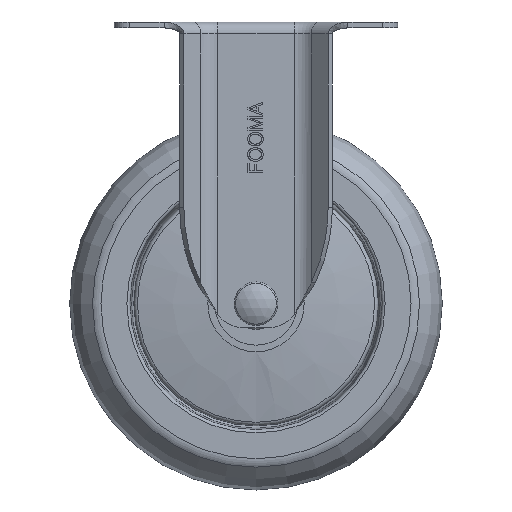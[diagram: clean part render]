
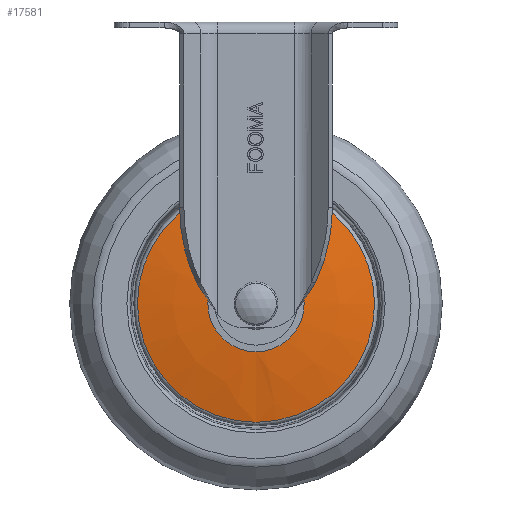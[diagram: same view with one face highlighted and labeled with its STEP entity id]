
A CAD part, front view. The second image highlights one B-rep face of the part: STEP entity #17581.
In plain terms, the highlighted free-form (B-spline) face has degree [2, 2] with [3, 9] control points.
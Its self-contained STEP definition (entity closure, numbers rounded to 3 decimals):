
#4522=(
BOUNDED_CURVE()
B_SPLINE_CURVE(2,(#24921,#24922,#24923),.UNSPECIFIED.,.F.,.F.)
B_SPLINE_CURVE_WITH_KNOTS((3,3),(1.358,1.496),
 .UNSPECIFIED.)
CURVE()
GEOMETRIC_REPRESENTATION_ITEM()
RATIONAL_B_SPLINE_CURVE((1.,0.998,1.))
REPRESENTATION_ITEM('')
);
#4538=(
BOUNDED_SURFACE()
B_SPLINE_SURFACE(2,2,((#24890,#24891,#24892,#24893,#24894,#24895,#24896,
#24897,#24898),(#24899,#24900,#24901,#24902,#24903,#24904,#24905,#24906,
#24907),(#24908,#24909,#24910,#24911,#24912,#24913,#24914,#24915,#24916)),
 .UNSPECIFIED.,.F.,.T.,.F.)
B_SPLINE_SURFACE_WITH_KNOTS((3,3),(3,2,2,2,3),(-1.496,-1.358),
(-3.142,-1.571,0.,1.571,3.142),
 .UNSPECIFIED.)
GEOMETRIC_REPRESENTATION_ITEM()
RATIONAL_B_SPLINE_SURFACE(((1.,0.707,1.,0.707,1.,
0.707,1.,0.707,1.),(0.998,0.705,
0.998,0.705,0.998,0.705,
0.998,0.705,0.998),(1.,0.707,
1.,0.707,1.,0.707,1.,0.707,1.)))
REPRESENTATION_ITEM('')
SURFACE()
);
#4917=FACE_OUTER_BOUND('',#5935,.T.);
#5935=EDGE_LOOP('',(#11714,#11715,#11716,#11717,#11718,#11719));
#7009=CIRCLE('',#18611,16.136);
#7010=CIRCLE('',#18612,16.136);
#7011=CIRCLE('',#18613,39.788);
#7012=CIRCLE('',#18614,39.788);
#7323=VERTEX_POINT('',#24883);
#7324=VERTEX_POINT('',#24884);
#7325=VERTEX_POINT('',#24917);
#7326=VERTEX_POINT('',#24918);
#9056=EDGE_CURVE('',#7323,#7324,#7009,.T.);
#9057=EDGE_CURVE('',#7324,#7323,#7010,.T.);
#9059=EDGE_CURVE('',#7325,#7326,#7011,.T.);
#9060=EDGE_CURVE('',#7326,#7325,#7012,.T.);
#9061=EDGE_CURVE('',#7326,#7324,#4522,.T.);
#11714=ORIENTED_EDGE('',*,*,#9059,.F.);
#11715=ORIENTED_EDGE('',*,*,#9060,.F.);
#11716=ORIENTED_EDGE('',*,*,#9061,.T.);
#11717=ORIENTED_EDGE('',*,*,#9057,.T.);
#11718=ORIENTED_EDGE('',*,*,#9056,.T.);
#11719=ORIENTED_EDGE('',*,*,#9061,.F.);
#17581=ADVANCED_FACE('',(#4917),#4538,.F.);
#18611=AXIS2_PLACEMENT_3D('',#24885,#19987,#19988);
#18612=AXIS2_PLACEMENT_3D('',#24886,#19989,#19990);
#18613=AXIS2_PLACEMENT_3D('',#24919,#19991,#19992);
#18614=AXIS2_PLACEMENT_3D('',#24920,#19993,#19994);
#19987=DIRECTION('center_axis',(0.,1.,0.));
#19988=DIRECTION('ref_axis',(1.,0.,0.));
#19989=DIRECTION('center_axis',(0.,1.,0.));
#19990=DIRECTION('ref_axis',(1.,0.,0.));
#19991=DIRECTION('center_axis',(0.,1.,0.));
#19992=DIRECTION('ref_axis',(1.,0.,0.));
#19993=DIRECTION('center_axis',(0.,1.,0.));
#19994=DIRECTION('ref_axis',(1.,0.,0.));
#24883=CARTESIAN_POINT('',(0.,-18.667,-78.364));
#24884=CARTESIAN_POINT('',(0.,-18.667,-110.636));
#24885=CARTESIAN_POINT('Origin',(0.,-18.667,-94.5));
#24886=CARTESIAN_POINT('Origin',(0.,-18.667,-94.5));
#24890=CARTESIAN_POINT('Ctrl Pts',(0.,-18.667,-110.636));
#24891=CARTESIAN_POINT('Ctrl Pts',(-16.136,-18.667,
-110.636));
#24892=CARTESIAN_POINT('Ctrl Pts',(-16.136,-18.667,
-94.5));
#24893=CARTESIAN_POINT('Ctrl Pts',(-16.136,-18.667,
-78.364));
#24894=CARTESIAN_POINT('Ctrl Pts',(0.,-18.667,-78.364));
#24895=CARTESIAN_POINT('Ctrl Pts',(16.136,-18.667,-78.364));
#24896=CARTESIAN_POINT('Ctrl Pts',(16.136,-18.667,-94.5));
#24897=CARTESIAN_POINT('Ctrl Pts',(16.136,-18.667,-110.636));
#24898=CARTESIAN_POINT('Ctrl Pts',(0.,-18.667,-110.636));
#24899=CARTESIAN_POINT('Ctrl Pts',(0.,-17.777,-122.58));
#24900=CARTESIAN_POINT('Ctrl Pts',(-28.08,-17.777,
-122.58));
#24901=CARTESIAN_POINT('Ctrl Pts',(-28.08,-17.777,
-94.5));
#24902=CARTESIAN_POINT('Ctrl Pts',(-28.08,-17.777,
-66.42));
#24903=CARTESIAN_POINT('Ctrl Pts',(0.,-17.777,-66.42));
#24904=CARTESIAN_POINT('Ctrl Pts',(28.08,-17.777,-66.42));
#24905=CARTESIAN_POINT('Ctrl Pts',(28.08,-17.777,-94.5));
#24906=CARTESIAN_POINT('Ctrl Pts',(28.08,-17.777,-122.58));
#24907=CARTESIAN_POINT('Ctrl Pts',(0.,-17.777,-122.58));
#24908=CARTESIAN_POINT('Ctrl Pts',(0.,-15.25,-134.288));
#24909=CARTESIAN_POINT('Ctrl Pts',(-39.788,-15.25,
-134.288));
#24910=CARTESIAN_POINT('Ctrl Pts',(-39.788,-15.25,
-94.5));
#24911=CARTESIAN_POINT('Ctrl Pts',(-39.788,-15.25,
-54.712));
#24912=CARTESIAN_POINT('Ctrl Pts',(0.,-15.25,-54.712));
#24913=CARTESIAN_POINT('Ctrl Pts',(39.788,-15.25,-54.712));
#24914=CARTESIAN_POINT('Ctrl Pts',(39.788,-15.25,-94.5));
#24915=CARTESIAN_POINT('Ctrl Pts',(39.788,-15.25,-134.288));
#24916=CARTESIAN_POINT('Ctrl Pts',(0.,-15.25,-134.288));
#24917=CARTESIAN_POINT('',(0.,-15.25,-54.712));
#24918=CARTESIAN_POINT('',(0.,-15.25,-134.288));
#24919=CARTESIAN_POINT('Origin',(0.,-15.25,-94.5));
#24920=CARTESIAN_POINT('Origin',(0.,-15.25,-94.5));
#24921=CARTESIAN_POINT('Ctrl Pts',(0.,-15.25,-134.288));
#24922=CARTESIAN_POINT('Ctrl Pts',(0.,-17.777,-122.58));
#24923=CARTESIAN_POINT('Ctrl Pts',(0.,-18.667,-110.636));
